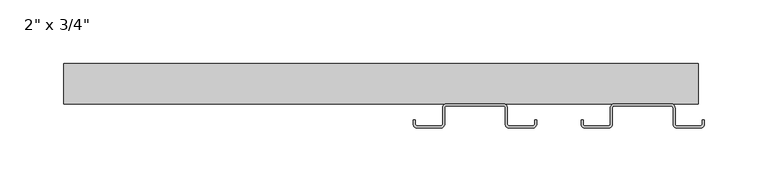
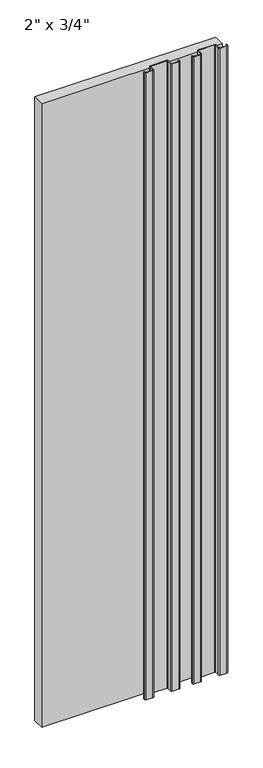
"""IFC4 building model written with IfcOpenShell, lengths in millimetres: plate geometry."""

from ifc_helpers import new_model, si_unit, point, frame, frame_2d, origin, origin_with_axes, place, context, project, spatial, polyline, circle_curve, trimmed, segment, composite_curve, outline, extrude, source, transform, mapped, element, save


def plate_facd7c0a(model_context):
    return source(origin(), model_context, "Body", "SweptSolid", [
        extrude(outline(composite_curve([segment(polyline([(157.1497998, 3.175), (157.1497998, 6.35), (158.7372998, 6.35), (158.7372998, 3.175)]), True, "CONTINUOUS"), segment(trimmed(circle_curve(frame_2d((160.3247998, 3.175)), 1.5875), [point((158.7372998, 3.175))], [point((160.3247998, 1.5875))], True, "CARTESIAN"), True, "CONTINUOUS"), segment(polyline([(160.3247998, 1.5875), (178.5873998, 1.5875)]), True, "CONTINUOUS"), segment(trimmed(circle_curve(frame_2d((178.5873998, 3.175)), 1.5875), [point((178.5873998, 1.5875))], [point((180.1748998, 3.175))], True, "CARTESIAN"), True, "CONTINUOUS"), segment(polyline([(180.1748998, 3.175), (180.1748998, 15.875)]), True, "CONTINUOUS"), segment(trimmed(circle_curve(frame_2d((183.3498998, 15.875)), 3.175), [point((180.1748998, 15.875))], [point((183.3498998, 19.05))], False, "CARTESIAN"), True, "CONTINUOUS"), segment(polyline([(183.3498998, 19.05), (227.7998998, 19.05)]), True, "CONTINUOUS"), segment(trimmed(circle_curve(frame_2d((227.7998998, 15.875)), 3.175), [point((227.7998998, 19.05))], [point((230.9748998, 15.875))], False, "CARTESIAN"), True, "CONTINUOUS"), segment(polyline([(230.9748998, 15.875), (230.9748998, 3.175)]), True, "CONTINUOUS"), segment(trimmed(circle_curve(frame_2d((232.5623998, 3.175)), 1.5875), [point((230.9748998, 3.175))], [point((232.5623998, 1.5875))], True, "CARTESIAN"), True, "CONTINUOUS"), segment(polyline([(232.5623998, 1.5875), (250.8249998, 1.5875)]), True, "CONTINUOUS"), segment(trimmed(circle_curve(frame_2d((250.8249998, 3.175)), 1.5875), [point((250.8249998, 1.5875))], [point((252.4124998, 3.175))], True, "CARTESIAN"), True, "CONTINUOUS"), segment(polyline([(252.4124998, 3.175), (252.4124998, 6.35), (253.9999998, 6.35), (253.9999998, 3.175)]), True, "CONTINUOUS"), segment(trimmed(circle_curve(frame_2d((250.8249998, 3.175)), 3.175), [point((253.9999998, 3.175))], [point((250.8249998, 0.0))], False, "CARTESIAN"), True, "CONTINUOUS"), segment(polyline([(250.8249998, 0.0), (232.5623998, 0.0)]), True, "CONTINUOUS"), segment(trimmed(circle_curve(frame_2d((232.5623998, 3.175)), 3.175), [point((232.5623998, 0.0))], [point((229.3873998, 3.175))], False, "CARTESIAN"), True, "CONTINUOUS"), segment(polyline([(229.3873998, 3.175), (229.3873998, 15.875)]), True, "CONTINUOUS"), segment(trimmed(circle_curve(frame_2d((227.7998998, 15.875)), 1.5875), [point((229.3873998, 15.875))], [point((227.7998998, 17.4625))], True, "CARTESIAN"), True, "CONTINUOUS"), segment(polyline([(227.7998998, 17.4625), (183.3498998, 17.4625)]), True, "CONTINUOUS"), segment(trimmed(circle_curve(frame_2d((183.3498998, 15.875)), 1.5875), [point((183.3498998, 17.4625))], [point((181.7623998, 15.875))], True, "CARTESIAN"), True, "CONTINUOUS"), segment(polyline([(181.7623998, 15.875), (181.7623998, 3.175)]), True, "CONTINUOUS"), segment(trimmed(circle_curve(frame_2d((178.5873998, 3.175)), 3.175), [point((181.7623998, 3.175))], [point((178.5873998, 0.0))], False, "CARTESIAN"), True, "CONTINUOUS"), segment(polyline([(178.5873998, 0.0), (160.3247998, 0.0)]), True, "CONTINUOUS"), segment(trimmed(circle_curve(frame_2d((160.3247998, 3.175)), 3.175), [point((160.3247998, 0.0))], [point((157.1497998, 3.175))], False, "CARTESIAN"), True, "CONTINUOUS")], self_intersect=False)), origin_with_axes(), (0.0, 0.0, 1.0), 1828.8),
        extrude(outline(composite_curve([segment(polyline([(25.4000002, 3.175), (25.4000002, 6.35), (26.9875002, 6.35), (26.9875002, 3.175)]), True, "CONTINUOUS"), segment(trimmed(circle_curve(frame_2d((28.5750002, 3.175)), 1.5875), [point((26.9875002, 3.175))], [point((28.5750002, 1.5875))], True, "CARTESIAN"), True, "CONTINUOUS"), segment(polyline([(28.5750002, 1.5875), (46.8376002, 1.5875)]), True, "CONTINUOUS"), segment(trimmed(circle_curve(frame_2d((46.8376002, 3.175)), 1.5875), [point((46.8376002, 1.5875))], [point((48.4251002, 3.175))], True, "CARTESIAN"), True, "CONTINUOUS"), segment(polyline([(48.4251002, 3.175), (48.4251002, 15.875)]), True, "CONTINUOUS"), segment(trimmed(circle_curve(frame_2d((51.6001002, 15.875)), 3.175), [point((48.4251002, 15.875))], [point((51.6001002, 19.05))], False, "CARTESIAN"), True, "CONTINUOUS"), segment(polyline([(51.6001002, 19.05), (96.0501002, 19.05)]), True, "CONTINUOUS"), segment(trimmed(circle_curve(frame_2d((96.0501002, 15.875)), 3.175), [point((96.0501002, 19.05))], [point((99.2251002, 15.875))], False, "CARTESIAN"), True, "CONTINUOUS"), segment(polyline([(99.2251002, 15.875), (99.2251002, 3.175)]), True, "CONTINUOUS"), segment(trimmed(circle_curve(frame_2d((100.8126002, 3.175)), 1.5875), [point((99.2251002, 3.175))], [point((100.8126002, 1.5875))], True, "CARTESIAN"), True, "CONTINUOUS"), segment(polyline([(100.8126002, 1.5875), (119.0752002, 1.5875)]), True, "CONTINUOUS"), segment(trimmed(circle_curve(frame_2d((119.0752002, 3.175)), 1.5875), [point((119.0752002, 1.5875))], [point((120.6627002, 3.175))], True, "CARTESIAN"), True, "CONTINUOUS"), segment(polyline([(120.6627002, 3.175), (120.6627002, 6.35), (122.2502002, 6.35), (122.2502002, 3.175)]), True, "CONTINUOUS"), segment(trimmed(circle_curve(frame_2d((119.0752002, 3.175)), 3.175), [point((122.2502002, 3.175))], [point((119.0752002, 0.0))], False, "CARTESIAN"), True, "CONTINUOUS"), segment(polyline([(119.0752002, 0.0), (100.8126002, 0.0)]), True, "CONTINUOUS"), segment(trimmed(circle_curve(frame_2d((100.8126002, 3.175)), 3.175), [point((100.8126002, 0.0))], [point((97.6376002, 3.175))], False, "CARTESIAN"), True, "CONTINUOUS"), segment(polyline([(97.6376002, 3.175), (97.6376002, 15.875)]), True, "CONTINUOUS"), segment(trimmed(circle_curve(frame_2d((96.0501002, 15.875)), 1.5875), [point((97.6376002, 15.875))], [point((96.0501002, 17.4625))], True, "CARTESIAN"), True, "CONTINUOUS"), segment(polyline([(96.0501002, 17.4625), (51.6001002, 17.4625)]), True, "CONTINUOUS"), segment(trimmed(circle_curve(frame_2d((51.6001002, 15.875)), 1.5875), [point((51.6001002, 17.4625))], [point((50.0126002, 15.875))], True, "CARTESIAN"), True, "CONTINUOUS"), segment(polyline([(50.0126002, 15.875), (50.0126002, 3.175)]), True, "CONTINUOUS"), segment(trimmed(circle_curve(frame_2d((46.8376002, 3.175)), 3.175), [point((50.0126002, 3.175))], [point((46.8376002, 0.0))], False, "CARTESIAN"), True, "CONTINUOUS"), segment(polyline([(46.8376002, 0.0), (28.5750002, 0.0)]), True, "CONTINUOUS"), segment(trimmed(circle_curve(frame_2d((28.5750002, 3.175)), 3.175), [point((28.5750002, 0.0))], [point((25.4000002, 3.175))], False, "CARTESIAN"), True, "CONTINUOUS")], self_intersect=False)), origin_with_axes(), (0.0, 0.0, 1.0), 1828.8),
        extrude(outline(polyline([(249.2374998, 19.05), (-249.2374998, 19.05), (-249.2374998, 50.8), (249.2374998, 50.8), (249.2374998, 19.05)])), frame((0.0, 0.0, 4.7625), z_axis=(0.0, 0.0, 1.0), x_axis=(1.0, 0.0, 0.0)), (0.0, 0.0, 1.0), 1819.275),
    ])


if __name__ == "__main__":
    model = new_model("IFC4")
    model_context = context("Model", 3, world=origin())
    ifc_project = project(units=[si_unit("LENGTHUNIT", "METRE", prefix="MILLI")], contexts=[model_context])
    site = spatial("IfcSite", under=ifc_project)
    building = spatial("IfcBuilding", under=site)
    placement = place(None, origin())
    plate_shape = plate_facd7c0a(model_context)
    element("IfcPlate", 1, ObjectType="KWS_Generic-Panel_w_PanelRail-V : 2\" x 3/4\"", at=placement, inside=building, context=model_context, shape_type="MappedRepresentation", body=[
        mapped(plate_shape, transform((0.0, 0.0, 0.0), x_axis=(1.0, 0.0, 0.0), y_axis=(0.0, 1.0, 0.0), z_axis=(0.0, 0.0, 1.0))),
    ])
    save(model, "model.ifc")
